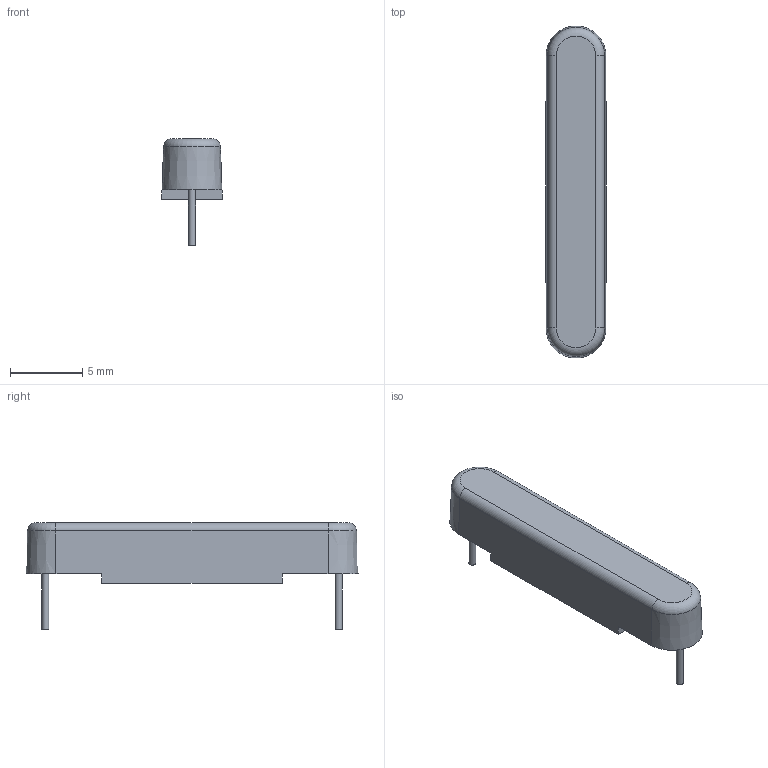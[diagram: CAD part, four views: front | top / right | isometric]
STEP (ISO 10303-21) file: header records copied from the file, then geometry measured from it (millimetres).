
FILE_DESCRIPTION((''),'2;1');
FILE_NAME('C:\Vault_local\Designs\Stock\3D pour clients\préparations\2D3D 503 A.stp','2009-08-05T11:10:15',('Georges THOLLOT ','Responsable ','Mthodes et Industrialisation',' Tl : +33 (0)4 77 53 90 27','gthollot@celduc.com'),('Celduc r e l a i s','5, rue Ampre, BP 30004','42290 SORBIERS - France','Fax. : +33 (0)4 77 53 85 51','N siret 353 310 519 00015','ISO 9001 N QUAL/1993/1106b','www.celduc.com'),'Autodesk Inventor 2009','Autodesk Inventor 2009','');
FILE_SCHEMA(('AUTOMOTIVE_DESIGN { 1 0 10303 214 1 1 1 1 }'));
Length unit declared in the file: millimetre
Products named in the file (1): PHA
Bounding box: 4.2 x 23 x 7.4 mm (x, y, z)
Volume: 346.9 mm3; surface area: 378.6 mm2
Topology: 1 solids, 1 shells, 18 faces, 38 edges, 24 vertices
Faces by surface type: plane 10, cylinder 4, torus 2, cone 2
Full cylindrical faces by diameter (mm): 0.5 x2
Entity records: 536 total; most frequent: DIRECTION 88, CARTESIAN_POINT 79, ORIENTED_EDGE 72, EDGE_CURVE 36, AXIS2_PLACEMENT_3D 33, VERTEX_POINT 24, EDGE_LOOP 22, VECTOR 22
